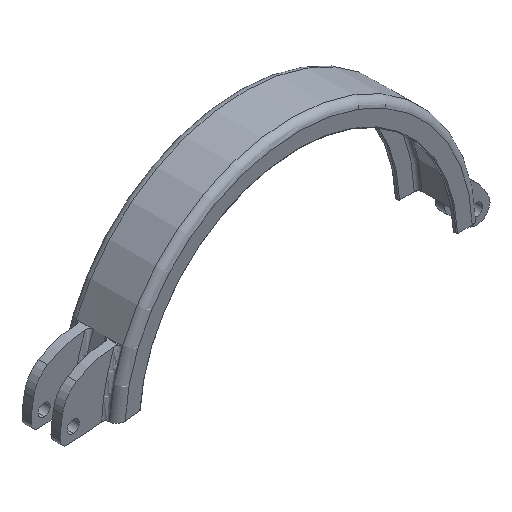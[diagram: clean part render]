
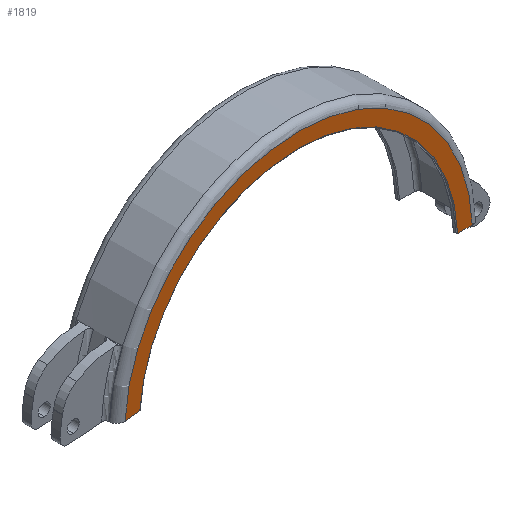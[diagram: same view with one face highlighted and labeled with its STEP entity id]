
A CAD part, isometric view. The second image highlights one B-rep face of the part: STEP entity #1819.
In plain terms, the highlighted planar face has unit normal (0, -1, 0).
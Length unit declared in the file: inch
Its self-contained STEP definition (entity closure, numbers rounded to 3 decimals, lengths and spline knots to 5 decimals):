
#3 = CARTESIAN_POINT ( 'NONE',  ( 1.57983, -0.31496, 0.39254 ) ) ;
#19 = AXIS2_PLACEMENT_3D ( 'NONE', #2014, #1201, #668 ) ;
#106 = DIRECTION ( 'NONE',  ( -1., 0., 0. ) ) ;
#128 = EDGE_CURVE ( 'NONE', #1140, #635, #1460, .T. ) ;
#205 = VECTOR ( 'NONE', #106, 39.37008 ) ;
#212 = CARTESIAN_POINT ( 'NONE',  ( 1.62097, -0.31496, 0.05906 ) ) ;
#457 = LINE ( 'NONE', #1589, #205 ) ;
#613 = CARTESIAN_POINT ( 'NONE',  ( -1.76885, -0.31496, 0.09957 ) ) ;
#635 = VERTEX_POINT ( 'NONE', #1037 ) ;
#668 = DIRECTION ( 'NONE',  ( 0., 0., 1. ) ) ;
#687 = EDGE_CURVE ( 'NONE', #1871, #1140, #2370, .T. ) ;
#708 = EDGE_CURVE ( 'NONE', #1960, #635, #1337, .T. ) ;
#782 = CARTESIAN_POINT ( 'NONE',  ( 1.61417, -0.31496, 0. ) ) ;
#927 = FACE_OUTER_BOUND ( 'NONE', #1928, .T. ) ;
#992 = ORIENTED_EDGE ( 'NONE', *, *, #128, .F. ) ;
#1037 = CARTESIAN_POINT ( 'NONE',  ( -1.61812, -0.31496, 0.11276 ) ) ;
#1129 = CARTESIAN_POINT ( 'NONE',  ( 0., -0.31496, 0. ) ) ;
#1140 = VERTEX_POINT ( 'NONE', #1344 ) ;
#1158 = AXIS2_PLACEMENT_3D ( 'NONE', #1129, #2072, #2468 ) ;
#1201 = DIRECTION ( 'NONE',  ( 0., -1., 0. ) ) ;
#1226 = CARTESIAN_POINT ( 'NONE',  ( 0., -0.31496, 0. ) ) ;
#1276 = VECTOR ( 'NONE', #1736, 39.37008 ) ;
#1281 = EDGE_CURVE ( 'NONE', #2221, #1871, #457, .T. ) ;
#1337 = LINE ( 'NONE', #3, #1276 ) ;
#1341 = ORIENTED_EDGE ( 'NONE', *, *, #687, .F. ) ;
#1340 = PLANE ( 'NONE',  #1756 ) ;
#1344 = CARTESIAN_POINT ( 'NONE',  ( 0., -0.31496, 1.62205 ) ) ;
#1378 = ORIENTED_EDGE ( 'NONE', *, *, #1281, .F. ) ;
#1381 = EDGE_CURVE ( 'NONE', #2221, #1960, #1398, .T. ) ;
#1398 = CIRCLE ( 'NONE', #1158, 1.77165 ) ;
#1460 = CIRCLE ( 'NONE', #19, 1.62205 ) ;
#1501 = CARTESIAN_POINT ( 'NONE',  ( 1.77067, -0.31496, 0.05906 ) ) ;
#1589 = CARTESIAN_POINT ( 'NONE',  ( 1.61417, -0.31496, 0.05906 ) ) ;
#1725 = DIRECTION ( 'NONE',  ( 0., -1., 0. ) ) ;
#1736 = DIRECTION ( 'NONE',  ( 0.996, 0., 0.087 ) ) ;
#1756 = AXIS2_PLACEMENT_3D ( 'NONE', #782, #1725, #2505 ) ;
#1817 = ORIENTED_EDGE ( 'NONE', *, *, #708, .T. ) ;
#1819 = ADVANCED_FACE ( 'NONE', ( #927 ), #1340, .T. ) ;
#1871 = VERTEX_POINT ( 'NONE', #212 ) ;
#1922 = AXIS2_PLACEMENT_3D ( 'NONE', #1226, #2095, #2271 ) ;
#1928 = EDGE_LOOP ( 'NONE', ( #2092, #1817, #992, #1341, #1378 ) ) ;
#1960 = VERTEX_POINT ( 'NONE', #613 ) ;
#2014 = CARTESIAN_POINT ( 'NONE',  ( 0., -0.31496, 0. ) ) ;
#2072 = DIRECTION ( 'NONE',  ( 0., -1., 0. ) ) ;
#2092 = ORIENTED_EDGE ( 'NONE', *, *, #1381, .T. ) ;
#2095 = DIRECTION ( 'NONE',  ( 0., -1., 0. ) ) ;
#2221 = VERTEX_POINT ( 'NONE', #1501 ) ;
#2271 = DIRECTION ( 'NONE',  ( 0., 0., 1. ) ) ;
#2370 = CIRCLE ( 'NONE', #1922, 1.62205 ) ;
#2468 = DIRECTION ( 'NONE',  ( 0., 0., -1. ) ) ;
#2505 = DIRECTION ( 'NONE',  ( 0., 0., -1. ) ) ;
